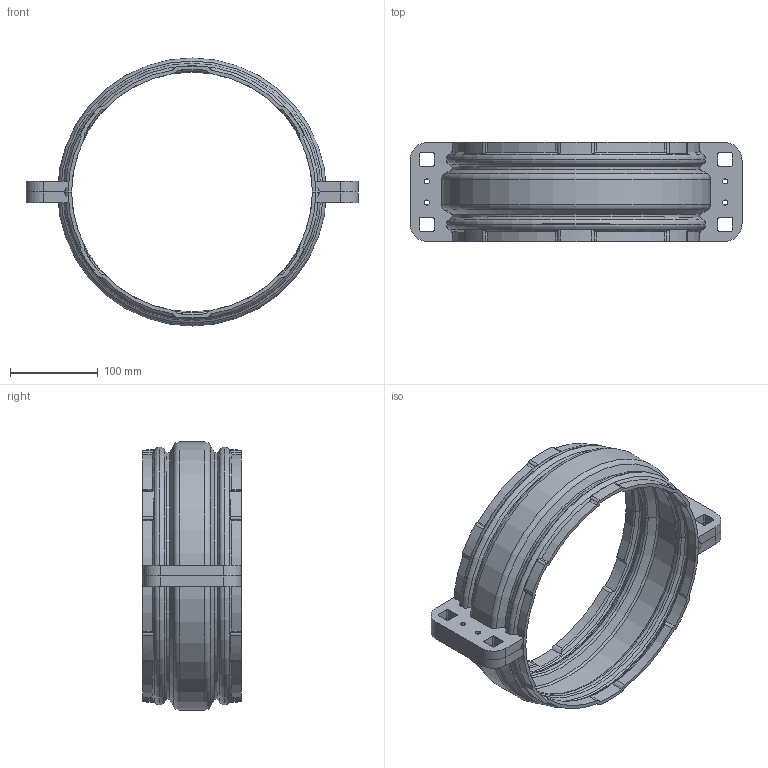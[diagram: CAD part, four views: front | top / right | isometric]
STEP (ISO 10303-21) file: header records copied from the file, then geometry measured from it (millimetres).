
FILE_DESCRIPTION(/* description */ (''),/* implementation_level */ '2;1');
FILE_NAME(/* name */ 'm002_stp.stp',/* time_stamp */ '2025-06-20T11:53:44+08:00',/* author */ (''),/* organization */ (''),/* preprocessor_version */ 'ST-DEVELOPER v14',/* originating_system */ 'SIEMENS PLM Software NX 8.0',/* authorisation */ '');
FILE_SCHEMA (('AP203_CONFIGURATION_CONTROLLED_3D_DESIGN_OF_MECHANICAL_PARTS_AND_ASSEMBLIES_MIM_LF { 1 0 10303 403 2 1 2}'));
Length unit declared in the file: millimetre
Products named in the file (1): Admi2540074F4ys8
Bounding box: 378.52 x 112.71 x 305.58 mm (x, y, z)
Volume: 671982.2 mm3; surface area: 307701.1 mm2
Topology: 6 solids, 6 shells, 588 faces, 1824 edges, 1248 vertices
Faces by surface type: cylinder 244, bspline 144, plane 104, torus 48, extrusion 24, cone 24
Full cylindrical faces by diameter (mm): 5.8 x8
Entity records: 23686 total; most frequent: CARTESIAN_POINT 8805, ORIENTED_EDGE 3616, DIRECTION 2462, EDGE_CURVE 1808, VERTEX_POINT 1240, AXIS2_PLACEMENT_3D 861, VECTOR 740, LINE 716
